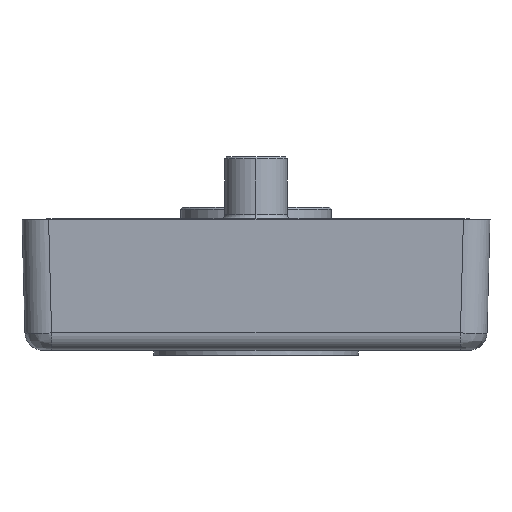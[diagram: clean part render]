
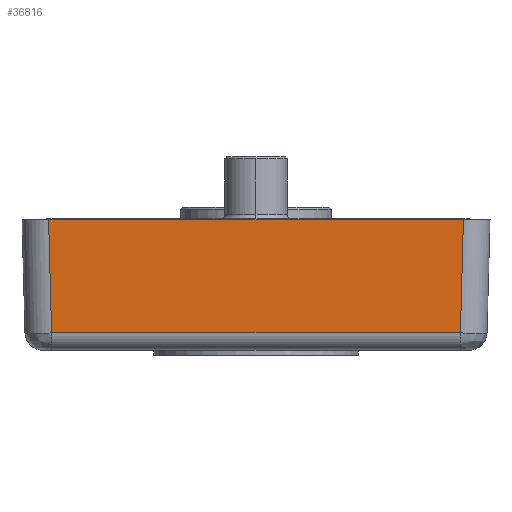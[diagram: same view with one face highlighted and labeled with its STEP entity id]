
A CAD part, front view. The second image highlights one B-rep face of the part: STEP entity #36816.
In plain terms, the highlighted planar face has unit normal (0, -1, -0.026).
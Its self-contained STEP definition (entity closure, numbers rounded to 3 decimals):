
#7773=CARTESIAN_POINT('',(23.386,-26.385,14.7));
#7798=DIRECTION('',(0.026,0.026,-0.999));
#7799=VECTOR('',#7798,12.761);
#7800=CARTESIAN_POINT('',(-23.386,-26.385,
14.7));
#7801=LINE('',#7800,#7799);
#7802=DIRECTION('',(-1.,0.,0.));
#7803=VECTOR('',#7802,46.772);
#7804=CARTESIAN_POINT('',(23.386,-26.385,14.7));
#7805=LINE('',#7804,#7803);
#7806=DIRECTION('',(0.026,-0.026,0.999));
#7807=VECTOR('',#7806,12.761);
#7808=CARTESIAN_POINT('',(23.052,-26.051,1.948));
#7809=LINE('',#7808,#7807);
#21900=DIRECTION('',(-1.,0.,0.));
#21901=VECTOR('',#21900,46.104);
#21902=CARTESIAN_POINT('',(23.052,-26.051,
1.948));
#21903=LINE('',#21902,#21901);
#22664=CARTESIAN_POINT('',(23.052,-26.051,
1.948));
#22665=VERTEX_POINT('',#22664);
#22666=CARTESIAN_POINT('',(-23.052,-26.051,
1.948));
#22667=VERTEX_POINT('',#22666);
#22681=VERTEX_POINT('',#7773);
#22682=CARTESIAN_POINT('',(-23.386,-26.385,
14.7));
#22683=VERTEX_POINT('',#22682);
#36803=CARTESIAN_POINT('',(-26.,-26.,0.));
#36804=DIRECTION('',(0.,-1.,-0.026));
#36805=DIRECTION('',(1.,0.,0.));
#36806=AXIS2_PLACEMENT_3D('',#36803,#36804,#36805);
#36807=PLANE('',#36806);
#36809=ORIENTED_EDGE('',*,*,#36808,.F.);
#36810=ORIENTED_EDGE('',*,*,#36643,.F.);
#36811=ORIENTED_EDGE('',*,*,#36794,.F.);
#36813=ORIENTED_EDGE('',*,*,#36812,.T.);
#36814=EDGE_LOOP('',(#36809,#36810,#36811,#36813));
#36815=FACE_OUTER_BOUND('',#36814,.F.);
#36816=ADVANCED_FACE('',(#36815),#36807,.T.);
#36643=EDGE_CURVE('',#22681,#22683,#7805,.T.);
#36794=EDGE_CURVE('',#22665,#22681,#7809,.T.);
#36808=EDGE_CURVE('',#22683,#22667,#7801,.T.);
#36812=EDGE_CURVE('',#22665,#22667,#21903,.T.);
